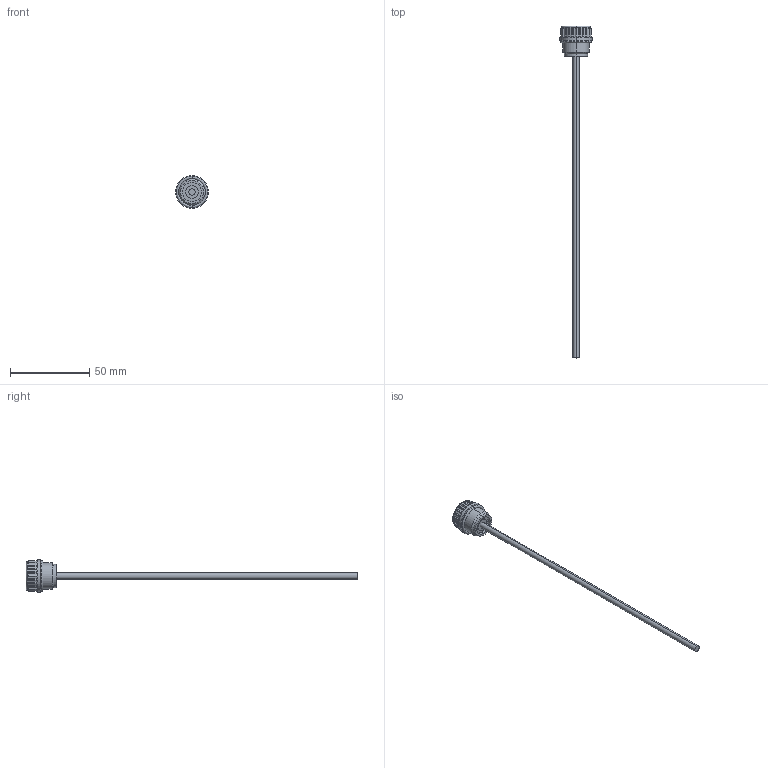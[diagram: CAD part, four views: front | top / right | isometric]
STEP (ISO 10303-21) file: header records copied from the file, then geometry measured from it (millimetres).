
FILE_DESCRIPTION (( 'STEP AP203' ), '1' );
FILE_NAME ('Wiberger-wn9132_3-8tum.step', '2012-09-21T10:34:16', ( 'Magnus' ), ( 'Wiberger' ), 'SwSTEP 2.0', 'SolidWorks 2011', '' );
FILE_SCHEMA (( 'CONFIG_CONTROL_DESIGN' ));
Length unit declared in the file: millimetre
Products named in the file (1): Wiberger-wn9132_3-8tum
Bounding box: 20.5 x 209 x 20.5 mm (x, y, z)
Volume: 6877.9 mm3; surface area: 4744.1 mm2
Topology: 3 solids, 3 shells, 151 faces, 392 edges, 202 vertices
Faces by surface type: cylinder 86, torus 54, plane 9, cone 2
Entity records: 4471 total; most frequent: CARTESIAN_POINT 938, DIRECTION 808, ORIENTED_EDGE 688, AXIS2_PLACEMENT_3D 360, EDGE_CURVE 344, CIRCLE 208, VERTEX_POINT 202, EDGE_LOOP 156
